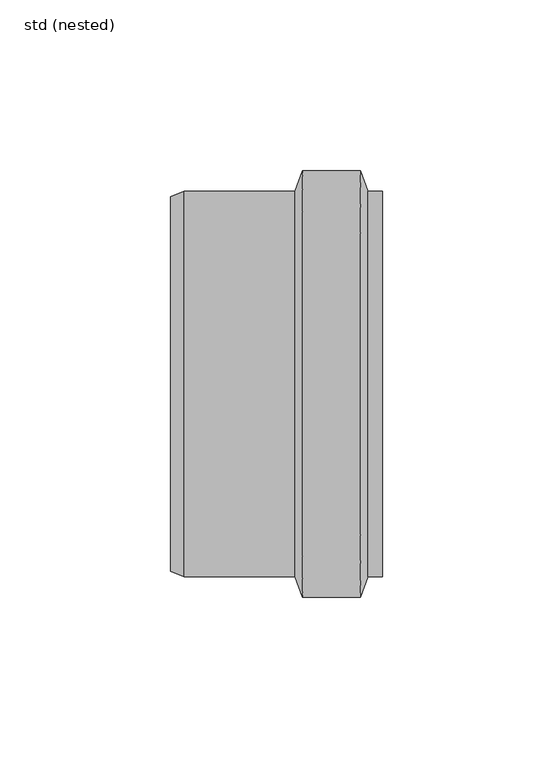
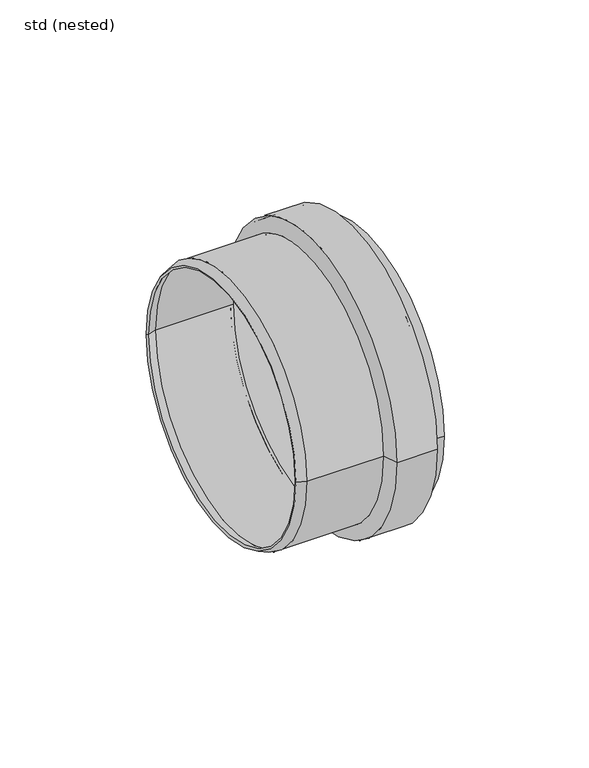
"""IFC4 building model written with IfcOpenShell, lengths in millimetres: pipe fitting geometry, ZZZ_do not use_PIF_ST_UN_ACO pipe socket_ACO : std (nested)."""

from ifc_helpers import new_model, si_unit, frame, origin, place, context, project, spatial, polyline, circle_curve, source, transform, mapped, element, save
from ifc_brep_helpers import plane_surface, cylinder_surface, revolved_surface, advanced_brep


def std_nested_af07ce19(model_context):
    return source(origin(), model_context, "Body", "AdvancedBrep", [
        advanced_brep(
        [(57.0, -55.5, 0.0), (57.0, 55.5, 0.0), (52.0, 55.5, 0.0), (52.0, -55.5, 0.0), (57.0, -56.5, 0.0), (57.0, 56.5, 0.0), (52.6984364, -56.5, 0.0), (52.6984364, 56.5, 0.0), (50.4984364, -62.5, 0.0), (50.4984364, 62.5, 0.0), (33.5015636, -62.5, 0.0), (33.5015636, 62.5, 0.0), (31.3015636, -56.5, 0.0), (31.3015636, 56.5, 0.0), (-1.1902264, -56.5, 0.0), (-1.1902264, 56.5, 0.0), (-5.1671665, -54.9301552, 0.0), (-5.1671665, 54.9301552, 0.0), (-4.8, -54.0, 0.0), (-4.8, 54.0, 0.0), (-1.0, -55.5, 0.0), (-1.0, 55.5, 0.0), (32.0, -55.5, 0.0), (32.0, 55.5, 0.0), (34.2, -61.5, 0.0), (34.2, 61.5, 0.0), (49.8, -61.5, 0.0), (49.8, 61.5, 0.0)],
        [
            (0, 1, circle_curve(frame((57.0, 0.0, 0.0), z_axis=(1.0, 0.0, 0.0), x_axis=(0.0, 1.0, 0.0)), 55.5)),
            (1, 2),
            (2, 3, circle_curve(frame((52.0, 0.0, 0.0), z_axis=(-1.0, 0.0, 0.0), x_axis=(0.0, 1.0, 0.0)), 55.5)),
            (3, 0),
            (1, 0, circle_curve(frame((57.0, 0.0, 0.0), z_axis=(1.0, 0.0, 0.0), x_axis=(0.0, 1.0, 0.0)), 55.5)),
            (3, 2, circle_curve(frame((52.0, 0.0, 0.0), z_axis=(-1.0, 0.0, 0.0), x_axis=(0.0, 1.0, 0.0)), 55.5)),
            (4, 5, circle_curve(frame((57.0, 0.0, 0.0), z_axis=(1.0, 0.0, 0.0), x_axis=(0.0, 1.0, 0.0)), 56.5)),
            (5, 1),
            (0, 4),
            (5, 4, circle_curve(frame((57.0, 0.0, 0.0), z_axis=(1.0, 0.0, 0.0), x_axis=(0.0, 1.0, 0.0)), 56.5)),
            (6, 7, circle_curve(frame((52.6984364, 0.0, 0.0), z_axis=(1.0, 0.0, 0.0), x_axis=(0.0, 1.0, 0.0)), 56.5)),
            (7, 5),
            (4, 6),
            (7, 6, circle_curve(frame((52.6984364, 0.0, 0.0), z_axis=(1.0, 0.0, 0.0), x_axis=(0.0, 1.0, 0.0)), 56.5)),
            (8, 9, circle_curve(frame((50.4984364, 0.0, 0.0), z_axis=(1.0, 0.0, 0.0), x_axis=(0.0, 1.0, 0.0)), 62.5)),
            (9, 7),
            (6, 8),
            (9, 8, circle_curve(frame((50.4984364, 0.0, 0.0), z_axis=(1.0, 0.0, 0.0), x_axis=(0.0, 1.0, 0.0)), 62.5)),
            (10, 11, circle_curve(frame((33.5015636, 0.0, 0.0), z_axis=(1.0, 0.0, 0.0), x_axis=(0.0, 1.0, 0.0)), 62.5)),
            (11, 9),
            (8, 10),
            (11, 10, circle_curve(frame((33.5015636, 0.0, 0.0), z_axis=(1.0, 0.0, 0.0), x_axis=(0.0, 1.0, 0.0)), 62.5)),
            (12, 13, circle_curve(frame((31.3015636, 0.0, 0.0), z_axis=(1.0, 0.0, 0.0), x_axis=(0.0, 1.0, 0.0)), 56.5)),
            (13, 11),
            (10, 12),
            (13, 12, circle_curve(frame((31.3015636, 0.0, 0.0), z_axis=(1.0, 0.0, 0.0), x_axis=(0.0, 1.0, 0.0)), 56.5)),
            (14, 15, circle_curve(frame((-1.1902264, 0.0, 0.0), z_axis=(1.0, 0.0, 0.0), x_axis=(0.0, 1.0, 0.0)), 56.5)),
            (15, 13),
            (12, 14),
            (15, 14, circle_curve(frame((-1.1902264, 0.0, 0.0), z_axis=(1.0, 0.0, 0.0), x_axis=(0.0, 1.0, 0.0)), 56.5)),
            (16, 17, circle_curve(frame((-5.1671665, 0.0, 0.0), z_axis=(1.0, 0.0, 0.0), x_axis=(0.0, 1.0, 0.0)), 54.9301552)),
            (17, 15),
            (14, 16),
            (17, 16, circle_curve(frame((-5.1671665, 0.0, 0.0), z_axis=(1.0, 0.0, 0.0), x_axis=(0.0, 1.0, 0.0)), 54.9301552)),
            (18, 19, circle_curve(frame((-4.8, 0.0, 0.0), z_axis=(1.0, 0.0, 0.0), x_axis=(0.0, 1.0, 0.0)), 54.0)),
            (19, 17),
            (16, 18),
            (19, 18, circle_curve(frame((-4.8, 0.0, 0.0), z_axis=(1.0, 0.0, 0.0), x_axis=(0.0, 1.0, 0.0)), 54.0)),
            (20, 21, circle_curve(frame((-1.0, 0.0, 0.0), z_axis=(1.0, 0.0, 0.0), x_axis=(0.0, 1.0, 0.0)), 55.5)),
            (21, 19),
            (18, 20),
            (21, 20, circle_curve(frame((-1.0, 0.0, 0.0), z_axis=(1.0, 0.0, 0.0), x_axis=(0.0, 1.0, 0.0)), 55.5)),
            (22, 23, circle_curve(frame((32.0, 0.0, 0.0), z_axis=(1.0, 0.0, 0.0), x_axis=(0.0, 1.0, 0.0)), 55.5)),
            (23, 21),
            (20, 22),
            (23, 22, circle_curve(frame((32.0, 0.0, 0.0), z_axis=(1.0, 0.0, 0.0), x_axis=(0.0, 1.0, 0.0)), 55.5)),
            (24, 25, circle_curve(frame((34.2, 0.0, 0.0), z_axis=(1.0, 0.0, 0.0), x_axis=(0.0, 1.0, 0.0)), 61.5)),
            (25, 23),
            (22, 24),
            (25, 24, circle_curve(frame((34.2, 0.0, 0.0), z_axis=(1.0, 0.0, 0.0), x_axis=(0.0, 1.0, 0.0)), 61.5)),
            (26, 27, circle_curve(frame((49.8, 0.0, 0.0), z_axis=(1.0, 0.0, 0.0), x_axis=(0.0, 1.0, 0.0)), 61.5)),
            (27, 25),
            (24, 26),
            (27, 26, circle_curve(frame((49.8, 0.0, 0.0), z_axis=(1.0, 0.0, 0.0), x_axis=(0.0, 1.0, 0.0)), 61.5)),
            (2, 27),
            (26, 3),
        ],
        [
            revolved_surface(polyline([(52.0, 55.5, 0.0), (57.0, 55.5, 0.0)]), (-17.268946, 0.0, 0.0), (-1.0, 0.0, 0.0)),
            plane_surface(frame((57.0, 0.0, 0.0), z_axis=(1.0, 0.0, 0.0), x_axis=(0.0, 1.0, 0.0))),
            cylinder_surface(frame((-17.268946, 0.0, 0.0), z_axis=(-1.0, 0.0, 0.0), x_axis=(0.0, 1.0, 0.0)), 56.5),
            revolved_surface(polyline([(52.6984364, 56.5, 0.0), (50.4984364, 62.5, 0.0)]), (-17.268946, 0.0, 0.0), (-1.0, 0.0, 0.0)),
            cylinder_surface(frame((-17.268946, 0.0, 0.0), z_axis=(-1.0, 0.0, 0.0), x_axis=(0.0, 1.0, 0.0)), 62.5),
            revolved_surface(polyline([(33.5015636, 62.5, 0.0), (31.3015636, 56.5, 0.0)]), (-17.268946, 0.0, 0.0), (-1.0, 0.0, 0.0)),
            revolved_surface(polyline([(-1.1902264, 56.5, 0.0), (-5.1671665, 54.9301552, 0.0)]), (-17.268946, 0.0, 0.0), (-1.0, 0.0, 0.0)),
            revolved_surface(polyline([(-5.1671665, 54.9301552, 0.0), (-4.8, 54.0, 0.0)]), (-17.268946, 0.0, 0.0), (-1.0, 0.0, 0.0)),
            revolved_surface(polyline([(-4.8, 54.0, 0.0), (-1.0, 55.5, 0.0)]), (-17.268946, 0.0, 0.0), (-1.0, 0.0, 0.0)),
            revolved_surface(polyline([(-1.0, 55.5, 0.0), (32.0, 55.5, 0.0)]), (-17.268946, 0.0, 0.0), (-1.0, 0.0, 0.0)),
            revolved_surface(polyline([(32.0, 55.5, 0.0), (34.2, 61.5, 0.0)]), (-17.268946, 0.0, 0.0), (-1.0, 0.0, 0.0)),
            revolved_surface(polyline([(34.2, 61.5, 0.0), (49.8, 61.5, 0.0)]), (-17.268946, 0.0, 0.0), (-1.0, 0.0, 0.0)),
            revolved_surface(polyline([(49.8, 61.5, 0.0), (52.0, 55.5, 0.0)]), (-17.268946, 0.0, 0.0), (-1.0, 0.0, 0.0)),
        ],
        [
            (0, [[1, 2, 3, 4]]),
            (0, [[5, -4, 6, -2]]),
            (1, [[7, 8, -1, 9]]),
            (1, [[10, -9, -5, -8]]),
            (2, [[11, 12, -7, 13]]),
            (2, [[14, -13, -10, -12]]),
            (3, [[15, 16, -11, 17]]),
            (3, [[18, -17, -14, -16]]),
            (4, [[19, 20, -15, 21]]),
            (4, [[22, -21, -18, -20]]),
            (5, [[23, 24, -19, 25]]),
            (5, [[26, -25, -22, -24]]),
            (2, [[27, 28, -23, 29]]),
            (2, [[30, -29, -26, -28]]),
            (6, [[31, 32, -27, 33]]),
            (6, [[34, -33, -30, -32]]),
            (7, [[35, 36, -31, 37]]),
            (7, [[38, -37, -34, -36]]),
            (8, [[39, 40, -35, 41]]),
            (8, [[42, -41, -38, -40]]),
            (9, [[43, 44, -39, 45]]),
            (9, [[46, -45, -42, -44]]),
            (10, [[47, 48, -43, 49]]),
            (10, [[50, -49, -46, -48]]),
            (11, [[51, 52, -47, 53]]),
            (11, [[54, -53, -50, -52]]),
            (12, [[-3, 55, -51, 56]]),
            (12, [[-6, -56, -54, -55]]),
        ],
    ),
    ])


if __name__ == "__main__":
    model = new_model("IFC4")
    model_context = context("Model", 3, world=origin())
    ifc_project = project(units=[si_unit("LENGTHUNIT", "METRE", prefix="MILLI")], contexts=[model_context])
    site = spatial("IfcSite", under=ifc_project)
    building = spatial("IfcBuilding", under=site)
    placement = place(None, origin())
    std_nested_shape = std_nested_af07ce19(model_context)
    element("IfcPipeFitting", 1, ObjectType="ZZZ_do not use_PIF_ST_UN_ACO pipe socket_ACO : std (nested)", at=placement, inside=building, context=model_context, shape_type="MappedRepresentation", body=[
        mapped(std_nested_shape, transform((0.0, 0.0, 0.0), x_axis=(1.0, 0.0, 0.0), y_axis=(0.0, 1.0, 0.0), z_axis=(0.0, 0.0, 1.0))),
    ])
    save(model, "model.ifc")
